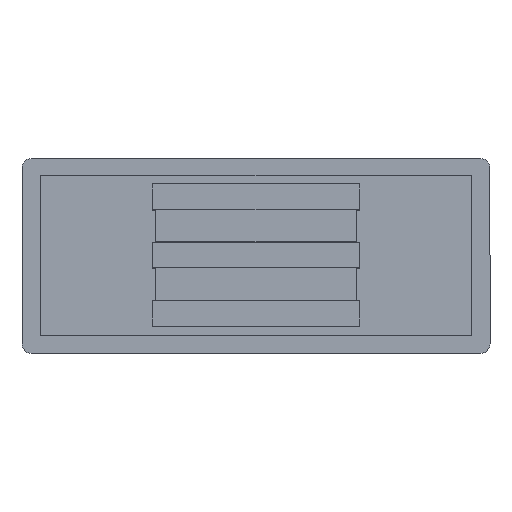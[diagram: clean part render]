
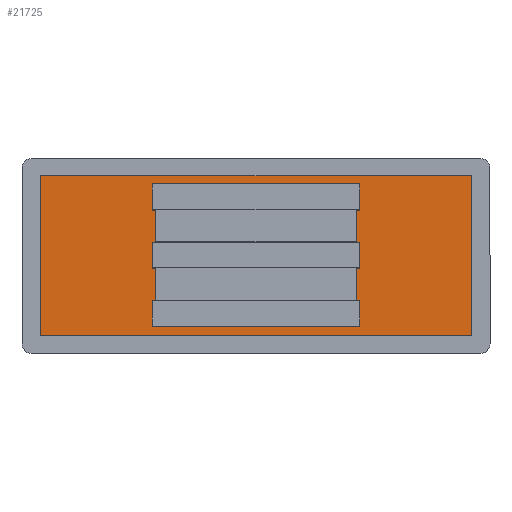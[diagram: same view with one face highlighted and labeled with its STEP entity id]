
A CAD part, top view. The second image highlights one B-rep face of the part: STEP entity #21725.
In plain terms, the highlighted planar face has unit normal (0, 0, 1).
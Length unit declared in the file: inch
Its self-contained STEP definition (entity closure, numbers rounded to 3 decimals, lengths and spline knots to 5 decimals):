
#25 = EDGE_CURVE ( 'NONE', #22060, #27085, #4265, .T. ) ;
#152 = VECTOR ( 'NONE', #17117, 39.37008 ) ;
#362 = CARTESIAN_POINT ( 'NONE',  ( -2.076, 0.771, 0.59375 ) ) ;
#532 = EDGE_CURVE ( 'NONE', #21590, #22060, #5269, .T. ) ;
#571 = VECTOR ( 'NONE', #18562, 39.37008 ) ;
#617 = CARTESIAN_POINT ( 'NONE',  ( -1., -0.4375, 0.59375 ) ) ;
#655 = ORIENTED_EDGE ( 'NONE', *, *, #26296, .F. ) ;
#663 = LINE ( 'NONE', #19201, #9390 ) ;
#758 = AXIS2_PLACEMENT_3D ( 'NONE', #10662, #27609, #4103 ) ;
#941 = VECTOR ( 'NONE', #4073, 39.37008 ) ;
#1244 = CARTESIAN_POINT ( 'NONE',  ( 1., -0.125, 0.59375 ) ) ;
#1635 = CARTESIAN_POINT ( 'NONE',  ( 1., 0.6875, 0.59375 ) ) ;
#1959 = DIRECTION ( 'NONE',  ( 0., 1., 0. ) ) ;
#2088 = EDGE_LOOP ( 'NONE', ( #19658, #8297, #15662, #17020 ) ) ;
#2218 = VECTOR ( 'NONE', #5668, 39.37008 ) ;
#2360 = VERTEX_POINT ( 'NONE', #11280 ) ;
#2462 = FACE_BOUND ( 'NONE', #27009, .T. ) ;
#2835 = DIRECTION ( 'NONE',  ( -1., 0., 0. ) ) ;
#3966 = VECTOR ( 'NONE', #7413, 39.37008 ) ;
#4035 = EDGE_CURVE ( 'NONE', #27085, #12206, #15278, .T. ) ;
#4073 = DIRECTION ( 'NONE',  ( 0., -1., 0. ) ) ;
#4103 = DIRECTION ( 'NONE',  ( 0., 1., 0. ) ) ;
#4200 = LINE ( 'NONE', #14990, #23986 ) ;
#4264 = CARTESIAN_POINT ( 'NONE',  ( 2.076, 0.771, 0.59375 ) ) ;
#4265 = LINE ( 'NONE', #9016, #26347 ) ;
#4393 = VECTOR ( 'NONE', #11892, 39.37008 ) ;
#4697 = VECTOR ( 'NONE', #23281, 39.37008 ) ;
#4779 = LINE ( 'NONE', #18545, #4393 ) ;
#5269 = LINE ( 'NONE', #18625, #25396 ) ;
#5291 = ORIENTED_EDGE ( 'NONE', *, *, #23105, .T. ) ;
#5668 = DIRECTION ( 'NONE',  ( 1., 0., 0. ) ) ;
#6294 = LINE ( 'NONE', #22513, #571 ) ;
#6316 = EDGE_CURVE ( 'NONE', #16708, #21740, #9820, .T. ) ;
#6462 = EDGE_CURVE ( 'NONE', #24310, #11470, #25246, .T. ) ;
#6756 = ORIENTED_EDGE ( 'NONE', *, *, #20711, .T. ) ;
#6820 = FACE_BOUND ( 'NONE', #2088, .T. ) ;
#7386 = EDGE_CURVE ( 'NONE', #24315, #15847, #663, .T. ) ;
#7413 = DIRECTION ( 'NONE',  ( 0., -1., 0. ) ) ;
#7764 = VECTOR ( 'NONE', #2835, 39.37008 ) ;
#7830 = CARTESIAN_POINT ( 'NONE',  ( 1., -0.4375, 0.59375 ) ) ;
#8297 = ORIENTED_EDGE ( 'NONE', *, *, #25, .T. ) ;
#8506 = FACE_BOUND ( 'NONE', #16326, .T. ) ;
#9016 = CARTESIAN_POINT ( 'NONE',  ( -1., -0.4375, 0.59375 ) ) ;
#9111 = CARTESIAN_POINT ( 'NONE',  ( 1., 0.4375, 0.59375 ) ) ;
#9376 = ORIENTED_EDGE ( 'NONE', *, *, #9848, .F. ) ;
#9390 = VECTOR ( 'NONE', #10771, 39.37008 ) ;
#9653 = CARTESIAN_POINT ( 'NONE',  ( -1., -0.125, 0.59375 ) ) ;
#9820 = LINE ( 'NONE', #26299, #24555 ) ;
#9842 = EDGE_CURVE ( 'NONE', #2360, #16708, #6294, .T. ) ;
#9848 = EDGE_CURVE ( 'NONE', #20988, #19332, #25414, .T. ) ;
#10200 = EDGE_LOOP ( 'NONE', ( #21043, #17443, #9376, #655 ) ) ;
#10399 = PLANE ( 'NONE',  #758 ) ;
#10662 = CARTESIAN_POINT ( 'NONE',  ( 2.259, 0.94, 0.59375 ) ) ;
#10705 = DIRECTION ( 'NONE',  ( -1., 0., 0. ) ) ;
#10771 = DIRECTION ( 'NONE',  ( 0., 1., 0. ) ) ;
#11280 = CARTESIAN_POINT ( 'NONE',  ( -1., -0.125, 0.59375 ) ) ;
#11359 = CARTESIAN_POINT ( 'NONE',  ( -1., 0.4375, 0.59375 ) ) ;
#11470 = VERTEX_POINT ( 'NONE', #1635 ) ;
#11577 = CARTESIAN_POINT ( 'NONE',  ( 1., -0.6875, 0.59375 ) ) ;
#11739 = EDGE_CURVE ( 'NONE', #14207, #24310, #24643, .T. ) ;
#11795 = DIRECTION ( 'NONE',  ( -1., 0., 0. ) ) ;
#11892 = DIRECTION ( 'NONE',  ( 0., -1., 0. ) ) ;
#12206 = VERTEX_POINT ( 'NONE', #19455 ) ;
#12811 = DIRECTION ( 'NONE',  ( 1., 0., 0. ) ) ;
#13481 = CARTESIAN_POINT ( 'NONE',  ( -1., 0.6875, 0.59375 ) ) ;
#14207 = VERTEX_POINT ( 'NONE', #22300 ) ;
#14221 = EDGE_CURVE ( 'NONE', #22796, #2360, #16811, .T. ) ;
#14230 = CARTESIAN_POINT ( 'NONE',  ( -1., 0.6875, 0.59375 ) ) ;
#14990 = CARTESIAN_POINT ( 'NONE',  ( -2.076, -0.771, 0.59375 ) ) ;
#15278 = LINE ( 'NONE', #7830, #2218 ) ;
#15662 = ORIENTED_EDGE ( 'NONE', *, *, #4035, .T. ) ;
#15847 = VERTEX_POINT ( 'NONE', #362 ) ;
#16326 = EDGE_LOOP ( 'NONE', ( #5291, #16613, #19153, #23966 ) ) ;
#16575 = LINE ( 'NONE', #21462, #152 ) ;
#16613 = ORIENTED_EDGE ( 'NONE', *, *, #11739, .T. ) ;
#16708 = VERTEX_POINT ( 'NONE', #23739 ) ;
#16811 = LINE ( 'NONE', #9653, #17467 ) ;
#17020 = ORIENTED_EDGE ( 'NONE', *, *, #27113, .T. ) ;
#17048 = ORIENTED_EDGE ( 'NONE', *, *, #6316, .T. ) ;
#17117 = DIRECTION ( 'NONE',  ( 0., -1., 0. ) ) ;
#17139 = CARTESIAN_POINT ( 'NONE',  ( -1., -0.6875, 0.59375 ) ) ;
#17443 = ORIENTED_EDGE ( 'NONE', *, *, #20196, .F. ) ;
#17467 = VECTOR ( 'NONE', #11795, 39.37008 ) ;
#18370 = CARTESIAN_POINT ( 'NONE',  ( 2.076, -0.771, 0.59375 ) ) ;
#18545 = CARTESIAN_POINT ( 'NONE',  ( 1., 0.4375, 0.59375 ) ) ;
#18562 = DIRECTION ( 'NONE',  ( 0., 1., 0. ) ) ;
#18625 = CARTESIAN_POINT ( 'NONE',  ( -1., -0.6875, 0.59375 ) ) ;
#19040 = CARTESIAN_POINT ( 'NONE',  ( 2.076, -0.771, 0.59375 ) ) ;
#19060 = CARTESIAN_POINT ( 'NONE',  ( 2.076, 0.771, 0.59375 ) ) ;
#19153 = ORIENTED_EDGE ( 'NONE', *, *, #6462, .T. ) ;
#19200 = VECTOR ( 'NONE', #12811, 39.37008 ) ;
#19201 = CARTESIAN_POINT ( 'NONE',  ( -2.076, 0.771, 0.59375 ) ) ;
#19332 = VERTEX_POINT ( 'NONE', #19040 ) ;
#19455 = CARTESIAN_POINT ( 'NONE',  ( 1., -0.4375, 0.59375 ) ) ;
#19658 = ORIENTED_EDGE ( 'NONE', *, *, #532, .T. ) ;
#19877 = DIRECTION ( 'NONE',  ( 0., 1., 0. ) ) ;
#19895 = VERTEX_POINT ( 'NONE', #9111 ) ;
#20196 = EDGE_CURVE ( 'NONE', #19332, #24315, #4200, .T. ) ;
#20588 = FACE_OUTER_BOUND ( 'NONE', #10200, .T. ) ;
#20711 = EDGE_CURVE ( 'NONE', #21740, #22796, #16575, .T. ) ;
#20988 = VERTEX_POINT ( 'NONE', #4264 ) ;
#21043 = ORIENTED_EDGE ( 'NONE', *, *, #7386, .F. ) ;
#21355 = CARTESIAN_POINT ( 'NONE',  ( 1., 0.125, 0.59375 ) ) ;
#21462 = CARTESIAN_POINT ( 'NONE',  ( 1., -0.125, 0.59375 ) ) ;
#21590 = VERTEX_POINT ( 'NONE', #11577 ) ;
#21725 = ADVANCED_FACE ( 'NONE', ( #8506, #2462, #6820, #20588 ), #10399, .F. ) ;
#21740 = VERTEX_POINT ( 'NONE', #21355 ) ;
#22060 = VERTEX_POINT ( 'NONE', #17139 ) ;
#22300 = CARTESIAN_POINT ( 'NONE',  ( -1., 0.4375, 0.59375 ) ) ;
#22513 = CARTESIAN_POINT ( 'NONE',  ( -1., 0.125, 0.59375 ) ) ;
#22796 = VERTEX_POINT ( 'NONE', #1244 ) ;
#22962 = ORIENTED_EDGE ( 'NONE', *, *, #9842, .T. ) ;
#23105 = EDGE_CURVE ( 'NONE', #19895, #14207, #25205, .T. ) ;
#23281 = DIRECTION ( 'NONE',  ( 1., 0., 0. ) ) ;
#23739 = CARTESIAN_POINT ( 'NONE',  ( -1., 0.125, 0.59375 ) ) ;
#23966 = ORIENTED_EDGE ( 'NONE', *, *, #25248, .T. ) ;
#23986 = VECTOR ( 'NONE', #10705, 39.37008 ) ;
#24310 = VERTEX_POINT ( 'NONE', #13481 ) ;
#24315 = VERTEX_POINT ( 'NONE', #24349 ) ;
#24349 = CARTESIAN_POINT ( 'NONE',  ( -2.076, -0.771, 0.59375 ) ) ;
#24421 = LINE ( 'NONE', #27306, #941 ) ;
#24429 = DIRECTION ( 'NONE',  ( 1., 0., 0. ) ) ;
#24555 = VECTOR ( 'NONE', #24429, 39.37008 ) ;
#24643 = LINE ( 'NONE', #14230, #26669 ) ;
#25205 = LINE ( 'NONE', #11359, #7764 ) ;
#25246 = LINE ( 'NONE', #27335, #19200 ) ;
#25248 = EDGE_CURVE ( 'NONE', #11470, #19895, #4779, .T. ) ;
#25313 = ORIENTED_EDGE ( 'NONE', *, *, #14221, .T. ) ;
#25396 = VECTOR ( 'NONE', #27136, 39.37008 ) ;
#25414 = LINE ( 'NONE', #18370, #3966 ) ;
#26296 = EDGE_CURVE ( 'NONE', #15847, #20988, #27152, .T. ) ;
#26299 = CARTESIAN_POINT ( 'NONE',  ( 1., 0.125, 0.59375 ) ) ;
#26347 = VECTOR ( 'NONE', #19877, 39.37008 ) ;
#26669 = VECTOR ( 'NONE', #1959, 39.37008 ) ;
#27009 = EDGE_LOOP ( 'NONE', ( #22962, #17048, #6756, #25313 ) ) ;
#27085 = VERTEX_POINT ( 'NONE', #617 ) ;
#27113 = EDGE_CURVE ( 'NONE', #12206, #21590, #24421, .T. ) ;
#27136 = DIRECTION ( 'NONE',  ( -1., 0., 0. ) ) ;
#27152 = LINE ( 'NONE', #19060, #4697 ) ;
#27306 = CARTESIAN_POINT ( 'NONE',  ( 1., -0.6875, 0.59375 ) ) ;
#27335 = CARTESIAN_POINT ( 'NONE',  ( 1., 0.6875, 0.59375 ) ) ;
#27609 = DIRECTION ( 'NONE',  ( 0., 0., -1. ) ) ;
